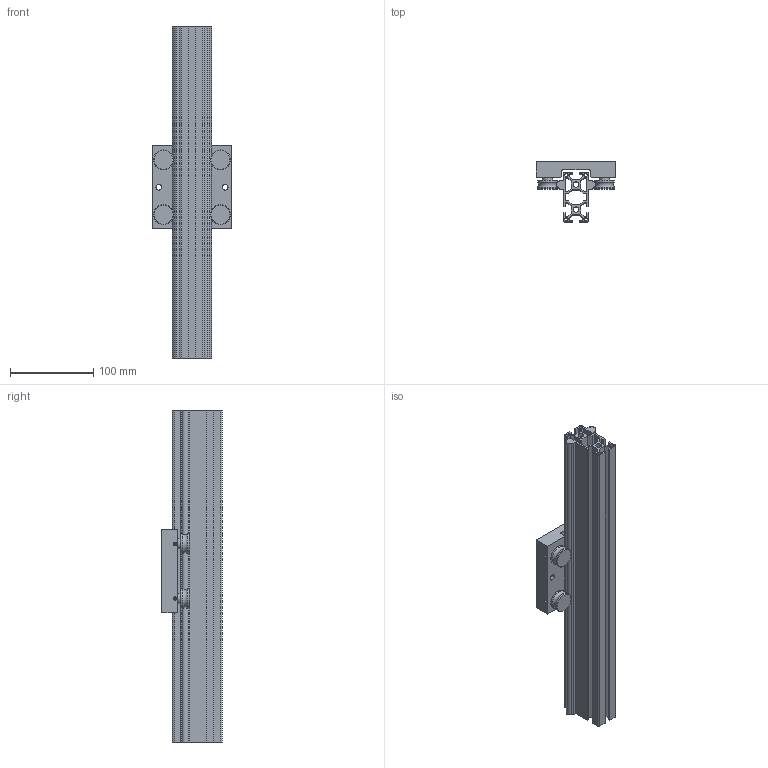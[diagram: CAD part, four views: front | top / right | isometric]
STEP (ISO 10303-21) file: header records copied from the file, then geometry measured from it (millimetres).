
FILE_DESCRIPTION (( 'STEP AP214' ), '1' );
FILE_NAME ('LSAP3060.STEP', '2021-12-15T06:59:22', ( '' ), ( '' ), 'SwSTEP 2.0', 'SolidWorks 2019', '' );
FILE_SCHEMA (( 'AUTOMOTIVE_DESIGN' ));
Length unit declared in the file: millimetre
Products named in the file (3): LSAP3060レール; LSAP3060キャリッジ; LSAP3060
Assembly tree (2 placements, depth 2):
  LSAP3060
    LSAP3060レール
    LSAP3060キャリッジ
Bounding box: 96 x 73 x 400 mm (x, y, z)
Volume: 469868.3 mm3; surface area: 275695.6 mm2
Topology: 10 solids, 10 shells, 295 faces, 695 edges, 442 vertices
Faces by surface type: plane 169, cylinder 62, cone 52, torus 12
Full cylindrical faces by diameter (mm): 3 x2, 4 x2, 4.2 x4, 6.8 x6, 8 x8, 8.4 x4, 12.3 x4, 13.5 x4, 19 x4, 24 x8
Entity records: 10766 total; most frequent: CARTESIAN_POINT 1879, DIRECTION 1317, ORIENTED_EDGE 1258, EDGE_CURVE 629, AXIS2_PLACEMENT_3D 484, VERTEX_POINT 438, EDGE_LOOP 421, FACE_OUTER_BOUND 353
